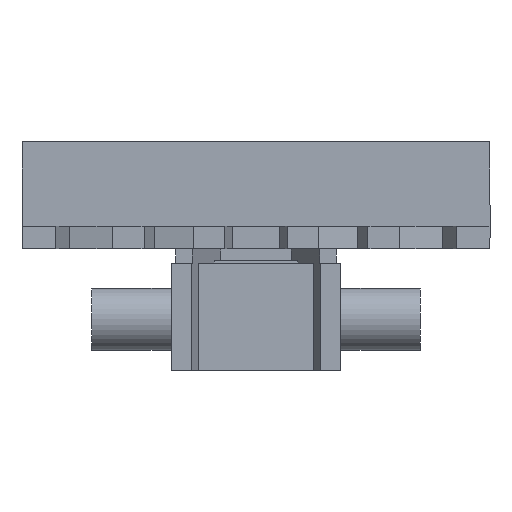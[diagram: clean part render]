
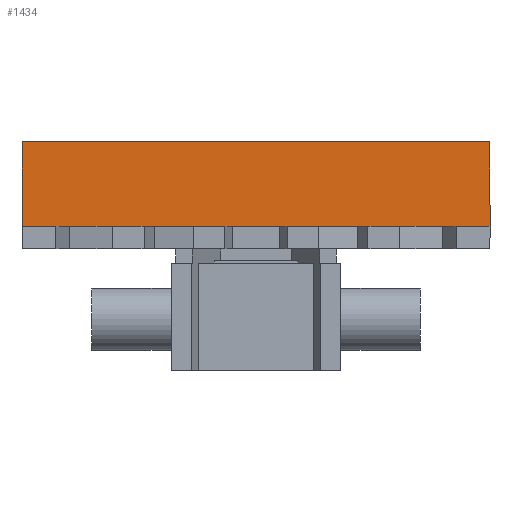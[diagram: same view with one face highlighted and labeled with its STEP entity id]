
A CAD part, left-side view. The second image highlights one B-rep face of the part: STEP entity #1434.
In plain terms, the highlighted planar face has unit normal (-1, 0, 0).
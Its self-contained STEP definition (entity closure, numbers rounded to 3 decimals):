
#6 = CARTESIAN_POINT ( 'NONE',  ( -3.825, 41.5, 57.5 ) ) ;
#42 = DIRECTION ( 'NONE',  ( 0., 0., -1. ) ) ;
#91 = LINE ( 'NONE', #1099, #1295 ) ;
#286 = VERTEX_POINT ( 'NONE', #2894 ) ;
#450 = DIRECTION ( 'NONE',  ( 0., 0., -1. ) ) ;
#474 = CARTESIAN_POINT ( 'NONE',  ( -3.825, -41.5, 57.5 ) ) ;
#572 = DIRECTION ( 'NONE',  ( 1., 0., 0. ) ) ;
#657 = AXIS2_PLACEMENT_3D ( 'NONE', #2688, #572, #42 ) ;
#902 = VECTOR ( 'NONE', #450, 1000. ) ;
#961 = VERTEX_POINT ( 'NONE', #1527 ) ;
#978 = EDGE_CURVE ( 'NONE', #961, #286, #2597, .T. ) ;
#1099 = CARTESIAN_POINT ( 'NONE',  ( -3.825, -41.5, 57.5 ) ) ;
#1186 = ORIENTED_EDGE ( 'NONE', *, *, #1629, .T. ) ;
#1295 = VECTOR ( 'NONE', #1575, 1000. ) ;
#1336 = VERTEX_POINT ( 'NONE', #6 ) ;
#1343 = VECTOR ( 'NONE', #2999, 1000. ) ;
#1426 = CARTESIAN_POINT ( 'NONE',  ( -3.825, -41.5, 57.5 ) ) ;
#1434 = ADVANCED_FACE ( 'NONE', ( #2133 ), #2449, .F. ) ;
#1527 = CARTESIAN_POINT ( 'NONE',  ( -3.825, -41.5, 42.5 ) ) ;
#1575 = DIRECTION ( 'NONE',  ( 0., 1., 0. ) ) ;
#1629 = EDGE_CURVE ( 'NONE', #2867, #1336, #91, .T. ) ;
#1805 = ORIENTED_EDGE ( 'NONE', *, *, #2212, .F. ) ;
#1988 = CARTESIAN_POINT ( 'NONE',  ( -3.825, -41.5, 42.5 ) ) ;
#1990 = EDGE_CURVE ( 'NONE', #1336, #286, #3029, .T. ) ;
#2033 = CARTESIAN_POINT ( 'NONE',  ( -3.825, 41.5, 57.5 ) ) ;
#2133 = FACE_OUTER_BOUND ( 'NONE', #2812, .T. ) ;
#2151 = LINE ( 'NONE', #1426, #902 ) ;
#2212 = EDGE_CURVE ( 'NONE', #2867, #961, #2151, .T. ) ;
#2443 = ORIENTED_EDGE ( 'NONE', *, *, #978, .F. ) ;
#2449 = PLANE ( 'NONE',  #657 ) ;
#2486 = ORIENTED_EDGE ( 'NONE', *, *, #1990, .T. ) ;
#2597 = LINE ( 'NONE', #1988, #1343 ) ;
#2676 = VECTOR ( 'NONE', #2976, 1000. ) ;
#2688 = CARTESIAN_POINT ( 'NONE',  ( -3.825, -41.5, 57.5 ) ) ;
#2812 = EDGE_LOOP ( 'NONE', ( #2486, #2443, #1805, #1186 ) ) ;
#2867 = VERTEX_POINT ( 'NONE', #474 ) ;
#2894 = CARTESIAN_POINT ( 'NONE',  ( -3.825, 41.5, 42.5 ) ) ;
#2976 = DIRECTION ( 'NONE',  ( 0., 0., -1. ) ) ;
#2999 = DIRECTION ( 'NONE',  ( 0., 1., 0. ) ) ;
#3029 = LINE ( 'NONE', #2033, #2676 ) ;
